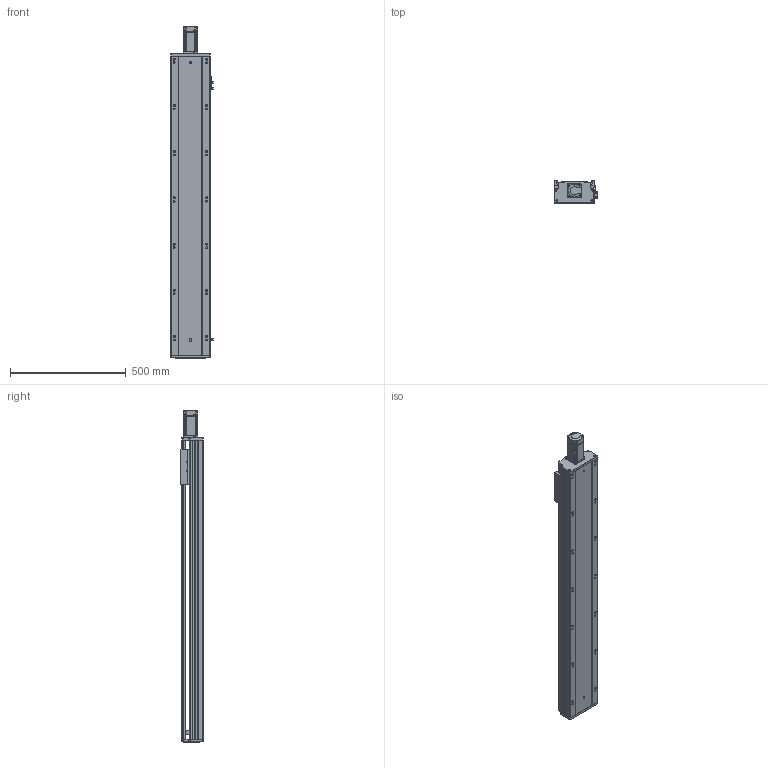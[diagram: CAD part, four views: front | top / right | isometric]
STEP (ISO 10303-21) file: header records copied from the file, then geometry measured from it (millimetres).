
FILE_DESCRIPTION (( 'STEP AP203' ), '1' );
FILE_NAME ('RY170Q-L2020-400-MK.SLDASM_1050.step', '2021-05-31T02:03:11', ( '盈信电脑' ), ( '东莞市道滘镇水果街19号' ), 'SwSTEP 2.0', 'SolidWorks 2016', '' );
FILE_SCHEMA (( 'CONFIG_CONTROL_DESIGN' ));
Length unit declared in the file: millimetre
Products named in the file (12): RY170Q-400倰第裔啣-MK_1050; 覜茼ん672; RY170綴裔啣; 侂狟400W侜督萇儂; 滅袉蝶18-10; RY170ヶ醱裔啣; RY170Q臏賑輸20佪裝蹟譫(FK15); RY170Q-L2020-400-MK.SLDASM_1050; 15; 滅袉蝶18-15; RY170Q-400倰第菁釱-MK_1050; RY170外置感应片(200共用）
Assembly tree (14 placements, depth 3):
  RY170Q-L2020-400-MK.SLDASM_1050
    RY170Q-400倰第菁釱-MK_1050
    RY170Q-400倰第裔啣-MK_1050
    RY170Q臏賑輸20佪裝蹟譫(FK15)
    侂狟400W侜督萇儂
      15
    RY170綴裔啣
    覜茼ん672  x3
    RY170外置感应片(200共用）
    RY170ヶ醱裔啣
    滅袉蝶18-15  x2
    滅袉蝶18-10
Bounding box: 183.7 x 97 x 1436.5 mm (x, y, z)
Volume: 6420996.1 mm3; surface area: 2117185.8 mm2
Topology: 13 solids, 13 shells, 2222 faces, 6343 edges, 4083 vertices
Faces by surface type: plane 1185, cylinder 815, cone 193, bspline 29
Entity records: 69994 total; most frequent: CARTESIAN_POINT 15445, ORIENTED_EDGE 11402, DIRECTION 10820, EDGE_CURVE 5701, VERTEX_POINT 3751, LINE 3660, VECTOR 3660, AXIS2_PLACEMENT_3D 3580
